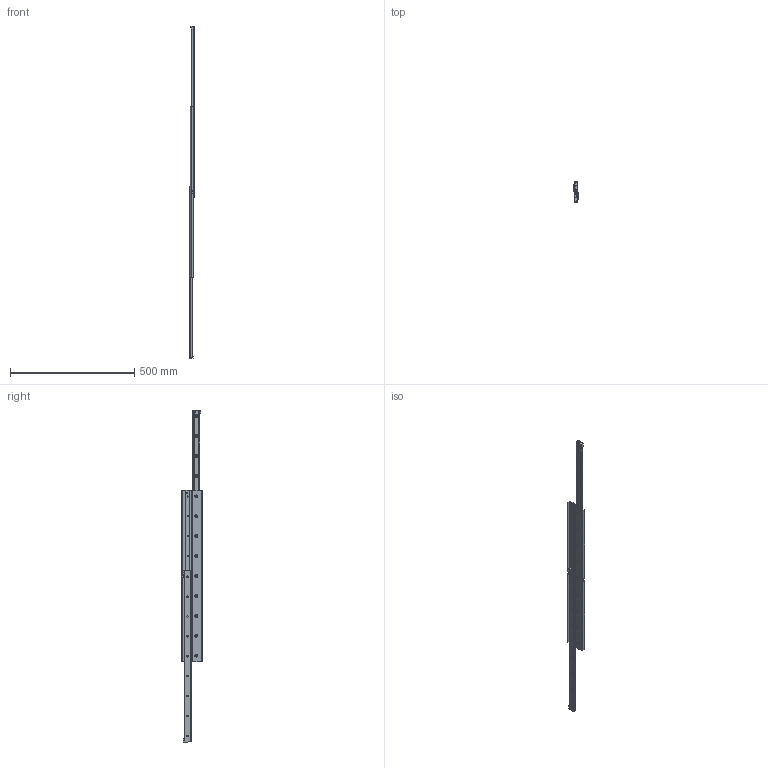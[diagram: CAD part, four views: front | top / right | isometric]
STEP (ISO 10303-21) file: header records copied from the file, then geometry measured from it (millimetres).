
FILE_DESCRIPTION (( 'STEP AP203' ), '1' );
FILE_NAME ('L1984.28D-0690.step', '2018-07-03T12:14:40', ( '' ), ( '' ), 'SwSTEP 2.0', 'SolidWorks 2017', '' );
FILE_SCHEMA (( 'CONFIG_CONTROL_DESIGN' ));
Length unit declared in the file: millimetre
Products named in the file (5): Part0_L1984.28D-0690; Part3_L1984.28D-0690; Part2_L1984.28D-0690; Part1_L1984.28D-0690; L1984.28D-0690
Assembly tree (7 placements, depth 2):
  L1984.28D-0690
    Part0_L1984.28D-0690
    Part2_L1984.28D-0690  x2
    Part1_L1984.28D-0690  x2
    Part3_L1984.28D-0690  x2
Bounding box: 17 x 84 x 1336 mm (x, y, z)
Volume: 592733.8 mm3; surface area: 407655.9 mm2
Topology: 7 solids, 7 shells, 542 faces, 1390 edges, 924 vertices
Faces by surface type: plane 364, cylinder 106, cone 72
Entity records: 12126 total; most frequent: CARTESIAN_POINT 2005, DIRECTION 1979, ORIENTED_EDGE 1938, EDGE_CURVE 969, VECTOR 743, LINE 743, VERTEX_POINT 644, AXIS2_PLACEMENT_3D 618
